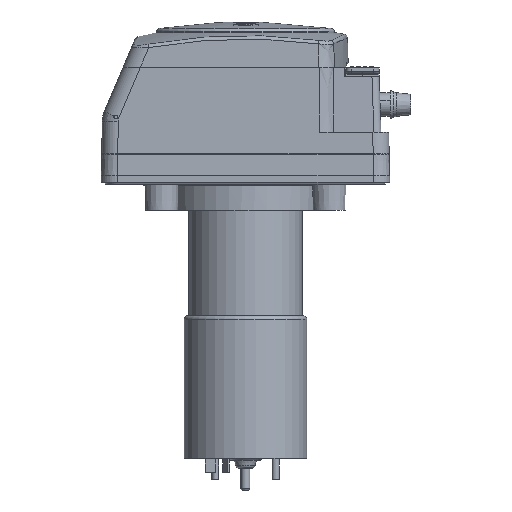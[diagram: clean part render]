
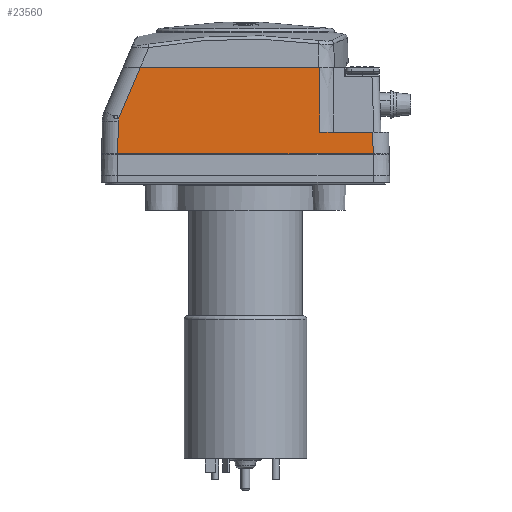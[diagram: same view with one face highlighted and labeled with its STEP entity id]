
A CAD part, left-side view. The second image highlights one B-rep face of the part: STEP entity #23560.
In plain terms, the highlighted planar face has unit normal (-1, 0, 0.018).
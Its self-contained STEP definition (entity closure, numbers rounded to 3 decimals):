
#271 = CARTESIAN_POINT ( 'NONE',  ( -31.422, -35.923, 8.95 ) ) ;
#3623 = CARTESIAN_POINT ( 'NONE',  ( -30.989, 35.49, 33.769 ) ) ;
#4032 = LINE ( 'NONE', #45436, #7167 ) ;
#5199 = CARTESIAN_POINT ( 'NONE',  ( -31.249, 35.594, 18.903 ) ) ;
#6569 = CARTESIAN_POINT ( 'NONE',  ( -31.318, 0., 14.95 ) ) ;
#7049 = EDGE_CURVE ( 'NONE', #46438, #30018, #30713, .T. ) ;
#7119 = DIRECTION ( 'NONE',  ( 0.017, 0., 1. ) ) ;
#7167 = VECTOR ( 'NONE', #28044, 1000. ) ;
#7862 = VERTEX_POINT ( 'NONE', #37962 ) ;
#9196 = CARTESIAN_POINT ( 'NONE',  ( -31., -20.748, 33.15 ) ) ;
#10430 = VERTEX_POINT ( 'NONE', #57215 ) ;
#11969 = VECTOR ( 'NONE', #27483, 1000. ) ;
#13577 = DIRECTION ( 'NONE',  ( -0.017, 0.017, -1. ) ) ;
#14849 = CARTESIAN_POINT ( 'NONE',  ( -31.053, -20.777, 30.103 ) ) ;
#15105 = EDGE_CURVE ( 'NONE', #34646, #10430, #37453, .T. ) ;
#15198 = VERTEX_POINT ( 'NONE', #56860 ) ;
#15372 = LINE ( 'NONE', #6569, #16923 ) ;
#15515 = ORIENTED_EDGE ( 'NONE', *, *, #48686, .T. ) ;
#15715 =( BOUNDED_CURVE ( )  B_SPLINE_CURVE ( 3, ( #25577, #30595, #47954, #43846 ),
 .UNSPECIFIED., .F., .T. ) 
 B_SPLINE_CURVE_WITH_KNOTS ( ( 4, 4 ),
 ( 4.311, 4.695 ),
 .UNSPECIFIED. ) 
 CURVE ( )  GEOMETRIC_REPRESENTATION_ITEM ( )  RATIONAL_B_SPLINE_CURVE ( ( 1., 0.988, 0.988, 1. ) ) 
 REPRESENTATION_ITEM ( '' )  );
#16317 = AXIS2_PLACEMENT_3D ( 'NONE', #47372, #43553, #7119 ) ;
#16344 = EDGE_CURVE ( 'NONE', #35444, #34646, #49559, .T. ) ;
#16508 = ORIENTED_EDGE ( 'NONE', *, *, #41081, .T. ) ;
#16923 = VECTOR ( 'NONE', #42415, 1000. ) ;
#17103 = LINE ( 'NONE', #3623, #57592 ) ;
#19240 = VERTEX_POINT ( 'NONE', #34849 ) ;
#19258 = DIRECTION ( 'NONE',  ( 0., 1., 0. ) ) ;
#21516 = VECTOR ( 'NONE', #48658, 1000. ) ;
#23560 = ADVANCED_FACE ( 'NONE', ( #25573 ), #35288, .T. ) ;
#24550 = EDGE_CURVE ( 'NONE', #7862, #46438, #4032, .T. ) ;
#25573 = FACE_OUTER_BOUND ( 'NONE', #35558, .T. ) ;
#25577 = CARTESIAN_POINT ( 'NONE',  ( -31.248, 35.566, 18.969 ) ) ;
#27483 = DIRECTION ( 'NONE',  ( -0.016, 0.391, -0.92 ) ) ;
#28044 = DIRECTION ( 'NONE',  ( 0., -1., 0. ) ) ;
#29211 = CARTESIAN_POINT ( 'NONE',  ( -31.16, -20.84, 24.009 ) ) ;
#29519 = ORIENTED_EDGE ( 'NONE', *, *, #7049, .T. ) ;
#29867 = VECTOR ( 'NONE', #19258, 1000. ) ;
#30018 = VERTEX_POINT ( 'NONE', #44671 ) ;
#30595 = CARTESIAN_POINT ( 'NONE',  ( -31.253, 35.692, 18.673 ) ) ;
#30713 = LINE ( 'NONE', #47514, #21516 ) ;
#32733 = EDGE_CURVE ( 'NONE', #15198, #7862, #17103, .T. ) ;
#34646 = VERTEX_POINT ( 'NONE', #9196 ) ;
#34849 = CARTESIAN_POINT ( 'NONE',  ( -31.248, 35.566, 18.969 ) ) ;
#35288 = PLANE ( 'NONE',  #16317 ) ;
#35444 = VERTEX_POINT ( 'NONE', #46876 ) ;
#35558 = EDGE_LOOP ( 'NONE', ( #16508, #40468, #41604, #42586, #15515, #47518, #46276, #29519 ) ) ;
#37453 = LINE ( 'NONE', #38041, #29867 ) ;
#37962 = CARTESIAN_POINT ( 'NONE',  ( -31.422, 35.923, 8.95 ) ) ;
#38041 = CARTESIAN_POINT ( 'NONE',  ( -31., 0., 33.15 ) ) ;
#40468 = ORIENTED_EDGE ( 'NONE', *, *, #16344, .T. ) ;
#41081 = EDGE_CURVE ( 'NONE', #30018, #35444, #15372, .T. ) ;
#41604 = ORIENTED_EDGE ( 'NONE', *, *, #15105, .T. ) ;
#41893 = CARTESIAN_POINT ( 'NONE',  ( -31., -20.748, 33.15 ) ) ;
#42178 = CARTESIAN_POINT ( 'NONE',  ( -31.318, -20.937, 14.95 ) ) ;
#42415 = DIRECTION ( 'NONE',  ( 0., 1., 0. ) ) ;
#42471 = CARTESIAN_POINT ( 'NONE',  ( -31.106, -20.808, 27.056 ) ) ;
#42586 = ORIENTED_EDGE ( 'NONE', *, *, #50616, .T. ) ;
#43553 = DIRECTION ( 'NONE',  ( -1., 0., 0.017 ) ) ;
#43846 = CARTESIAN_POINT ( 'NONE',  ( -31.264, 35.765, 18.036 ) ) ;
#44671 = CARTESIAN_POINT ( 'NONE',  ( -31.318, -35.818, 14.95 ) ) ;
#44879 = LINE ( 'NONE', #5199, #11969 ) ;
#45436 = CARTESIAN_POINT ( 'NONE',  ( -31.422, 0., 8.95 ) ) ;
#46276 = ORIENTED_EDGE ( 'NONE', *, *, #24550, .T. ) ;
#46438 = VERTEX_POINT ( 'NONE', #271 ) ;
#46871 = CARTESIAN_POINT ( 'NONE',  ( -31.265, -20.904, 17.97 ) ) ;
#46876 = CARTESIAN_POINT ( 'NONE',  ( -31.318, -20.937, 14.95 ) ) ;
#47372 = CARTESIAN_POINT ( 'NONE',  ( -31., 0., 33.15 ) ) ;
#47514 = CARTESIAN_POINT ( 'NONE',  ( -30.989, -35.49, 33.769 ) ) ;
#47518 = ORIENTED_EDGE ( 'NONE', *, *, #32733, .T. ) ;
#47954 = CARTESIAN_POINT ( 'NONE',  ( -31.258, 35.759, 18.358 ) ) ;
#48658 = DIRECTION ( 'NONE',  ( 0.017, 0.017, 1. ) ) ;
#48686 = EDGE_CURVE ( 'NONE', #19240, #15198, #15715, .T. ) ;
#49559 = B_SPLINE_CURVE_WITH_KNOTS ( 'NONE', 3,
 ( #42178, #46871, #55703, #29211, #42471, #14849, #41893 ),
 .UNSPECIFIED., .F., .F.,
 ( 4, 3, 4 ),
 ( 0., 0.009, 0.018 ),
 .UNSPECIFIED. ) ;
#50616 = EDGE_CURVE ( 'NONE', #10430, #19240, #44879, .T. ) ;
#55703 = CARTESIAN_POINT ( 'NONE',  ( -31.212, -20.871, 20.989 ) ) ;
#56860 = CARTESIAN_POINT ( 'NONE',  ( -31.264, 35.765, 18.036 ) ) ;
#57215 = CARTESIAN_POINT ( 'NONE',  ( -31., 29.547, 33.15 ) ) ;
#57592 = VECTOR ( 'NONE', #13577, 1000. ) ;
